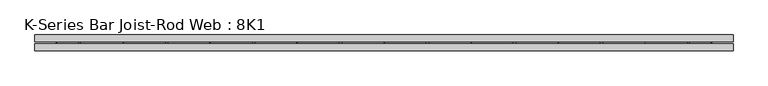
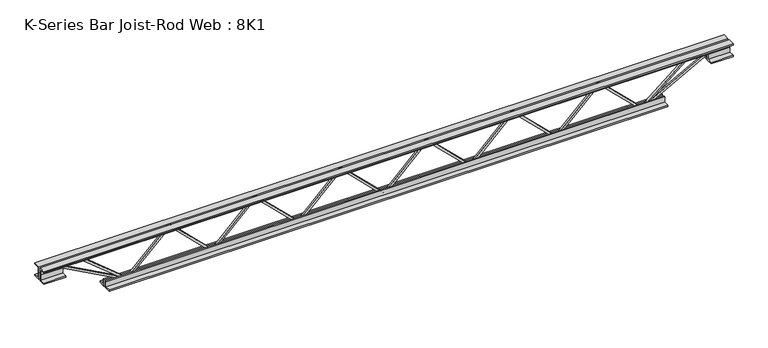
"""IFC4 building model written with IfcOpenShell, lengths in millimetres: beam geometry, K-Series Bar Joist-Rod Web : 8K1."""

from ifc_helpers import new_model, si_unit, frame, origin, place, context, project, spatial, polyline, outline, extrude, source, transform, mapped, element, save


def k_series_bar_joist_rod_web_8k1_a6564055(model_context):
    return source(origin(), model_context, "Body", "SweptSolid", [
        extrude(outline(polyline([(-90.4875, 401.8896924), (-100.0125, 401.8896924), (-100.0125, 407.0077855), (90.4875, 601.6026317), (90.4875, 604.0664455), (-100.0125, 798.6612917), (-100.0125, 803.7793848), (-90.4875, 803.7793848), (-90.4875, 802.5474779), (100.0125, 607.9526317), (100.0125, 597.7164455), (-90.4875, 403.1215993), (-90.4875, 401.8896924)])), frame((0.0, -4.7625, 0.0), z_axis=(0.0, 1.0, 0.0), x_axis=(0.0, 0.0, 1.0)), (0.0, 0.0, 1.0), 9.525),
        extrude(outline(polyline([(-90.4875, 0.0), (-100.0125, 0.0), (-100.0125, 5.1180931), (90.4875, 199.7129393), (90.4875, 202.1767531), (-100.0125, 396.7715993), (-100.0125, 401.8896924), (-90.4875, 401.8896924), (-90.4875, 400.6577855), (100.0125, 206.0629393), (100.0125, 195.8267531), (-90.4875, 1.2319069), (-90.4875, 0.0)])), frame((0.0, -4.7625, 0.0), z_axis=(0.0, 1.0, 0.0), x_axis=(0.0, 0.0, 1.0)), (0.0, 0.0, 1.0), 9.525),
        extrude(outline(polyline([(-90.4875, -401.8896924), (-100.0125, -401.8896924), (-100.0125, -396.7715993), (90.4875, -202.1767531), (90.4875, -199.7129393), (-100.0125, -5.1180931), (-100.0125, 0.0), (-90.4875, 0.0), (-90.4875, -1.2319069), (100.0125, -195.8267531), (100.0125, -206.0629393), (-90.4875, -400.6577855), (-90.4875, -401.8896924)])), frame((0.0, -4.7625, 0.0), z_axis=(0.0, 1.0, 0.0), x_axis=(0.0, 0.0, 1.0)), (0.0, 0.0, 1.0), 9.525),
        extrude(outline(polyline([(-90.4875, -803.7793848), (-100.0125, -803.7793848), (-100.0125, -798.6612917), (90.4875, -604.0664455), (90.4875, -601.6026317), (-100.0125, -407.0077855), (-100.0125, -401.8896924), (-90.4875, -401.8896924), (-90.4875, -403.1215993), (100.0125, -597.7164455), (100.0125, -607.9526317), (-90.4875, -802.5474779), (-90.4875, -803.7793848)])), frame((0.0, -4.7625, 0.0), z_axis=(0.0, 1.0, 0.0), x_axis=(0.0, 0.0, 1.0)), (0.0, 0.0, 1.0), 9.525),
        extrude(outline(polyline([(-90.4875, 803.7793848), (-100.0125, 803.7793848), (-100.0125, 808.8974779), (90.4875, 1003.4923241), (90.4875, 1005.9561379), (-100.0125, 1200.5509841), (-100.0125, 1205.6690772), (-90.4875, 1205.6690772), (-90.4875, 1204.4371703), (100.0125, 1009.8423241), (100.0125, 999.6061379), (-90.4875, 805.0112917), (-90.4875, 803.7793848)])), frame((0.0, -4.7625, 0.0), z_axis=(0.0, 1.0, 0.0), x_axis=(0.0, 0.0, 1.0)), (0.0, 0.0, 1.0), 9.525),
        extrude(outline(polyline([(-90.4875, -1205.6690772), (-100.0125, -1205.6690772), (-100.0125, -1200.5509841), (90.4875, -1005.9561379), (90.4875, -1003.4923241), (-100.0125, -808.8974779), (-100.0125, -803.7793848), (-90.4875, -803.7793848), (-90.4875, -805.0112917), (100.0125, -999.6061379), (100.0125, -1009.8423241), (-90.4875, -1204.4371703), (-90.4875, -1205.6690772)])), frame((0.0, -4.7625, 0.0), z_axis=(0.0, 1.0, 0.0), x_axis=(0.0, 0.0, 1.0)), (0.0, 0.0, 1.0), 9.525),
        extrude(outline(polyline([(4.7625, 101.6), (36.5125, 101.6), (36.5125, 95.25), (11.1125, 95.25), (11.1125, 69.85), (4.7625, 69.85), (4.7625, 101.6)])), frame((-1612.0690772, 0.0, 0.0), z_axis=(1.0, 0.0, 0.0), x_axis=(0.0, 1.0, 0.0)), (0.0, 0.0, 1.0), 3224.1381544),
        extrude(outline(polyline([(-4.7625, 101.6), (-4.7625, 69.85), (-11.1125, 69.85), (-11.1125, 95.25), (-36.5125, 95.25), (-36.5125, 101.6), (-4.7625, 101.6)])), frame((-1612.0690772, 0.0, 0.0), z_axis=(1.0, 0.0, 0.0), x_axis=(0.0, 1.0, 0.0)), (0.0, 0.0, 1.0), 3224.1381544),
        extrude(outline(polyline([(-4.7625, 38.1), (-36.5125, 38.1), (-36.5125, 44.45), (-11.1125, 44.45), (-11.1125, 69.85), (-4.7625, 69.85), (-4.7625, 38.1)])), frame((-1612.0690772, 0.0, 0.0), z_axis=(1.0, 0.0, 0.0), x_axis=(0.0, 1.0, 0.0)), (0.0, 0.0, 1.0), 101.6),
        extrude(outline(polyline([(36.5125, 38.1), (4.7625, 38.1), (4.7625, 69.85), (11.1125, 69.85), (11.1125, 44.45), (36.5125, 44.45), (36.5125, 38.1)])), frame((-1612.0690772, 0.0, 0.0), z_axis=(1.0, 0.0, 0.0), x_axis=(0.0, 1.0, 0.0)), (0.0, 0.0, 1.0), 101.6),
        extrude(outline(polyline([(4.7625, 38.1), (4.7625, 69.85), (11.1125, 69.85), (11.1125, 44.45), (36.5125, 44.45), (36.5125, 38.1), (4.7625, 38.1)])), frame((1510.4690772, 0.0, 0.0), z_axis=(1.0, 0.0, 0.0), x_axis=(0.0, 1.0, 0.0)), (0.0, 0.0, 1.0), 101.6),
        extrude(outline(polyline([(-4.7625, 38.1), (-36.5125, 38.1), (-36.5125, 44.45), (-11.1125, 44.45), (-11.1125, 69.85), (-4.7625, 69.85), (-4.7625, 38.1)])), frame((1510.4690772, 0.0, 0.0), z_axis=(1.0, 0.0, 0.0), x_axis=(0.0, 1.0, 0.0)), (0.0, 0.0, 1.0), 101.6),
        extrude(outline(polyline([(4.7625, -101.6), (4.7625, -69.85), (11.1125, -69.85), (11.1125, -95.25), (36.5125, -95.25), (36.5125, -101.6), (4.7625, -101.6)])), frame((-1307.2690772, 0.0, 0.0), z_axis=(1.0, 0.0, 0.0), x_axis=(0.0, 1.0, 0.0)), (0.0, 0.0, 1.0), 2614.5381544),
        extrude(outline(polyline([(-4.7625, -101.6), (-36.5125, -101.6), (-36.5125, -95.25), (-11.1125, -95.25), (-11.1125, -69.85), (-4.7625, -69.85), (-4.7625, -101.6)])), frame((-1307.2690772, 0.0, 0.0), z_axis=(1.0, 0.0, 0.0), x_axis=(0.0, 1.0, 0.0)), (0.0, 0.0, 1.0), 2614.5381544),
        extrude(outline(polyline([(0.0, -9.525), (0.0, 0.0), (346.6425392, 0.0), (346.6425392, -9.525), (0.0, -9.525)])), frame((-1512.7373757, 4.7625, 65.662372), z_axis=(0.47628314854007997, 0.0, 0.8792919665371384), x_axis=(0.8792919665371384, 0.0, -0.47628314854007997)), (0.0, 0.0, 1.0), 9.525),
        extrude(outline(polyline([(0.0, -9.525), (0.0, 0.0), (260.0708388, 0.0), (260.0708388, -9.525), (0.0, -9.525)])), frame((-1409.6372872, 4.7625, 66.170234), z_axis=(0.6348270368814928, 0.0, 0.7726542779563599), x_axis=(0.7726542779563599, 0.0, -0.6348270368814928)), (0.0, 0.0, 1.0), 9.525),
        extrude(outline(polyline([(0.0, -9.525), (0.0, 0.0), (346.6425392, 0.0), (346.6425392, -9.525), (0.0, -9.525)])), frame((1512.7373757, -4.7625, 65.662372), z_axis=(-0.4762831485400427, 0.0, 0.8792919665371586), x_axis=(-0.8792919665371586, 0.0, -0.4762831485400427)), (0.0, 0.0, 1.0), 9.525),
        extrude(outline(polyline([(0.0, -9.525), (0.0, 0.0), (260.0708388, 0.0), (260.0708388, -9.525), (0.0, -9.525)])), frame((1409.6372872, -4.7625, 66.170234), z_axis=(-0.6348270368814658, 0.0, 0.7726542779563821), x_axis=(-0.7726542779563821, 0.0, -0.6348270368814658)), (0.0, 0.0, 1.0), 9.525),
    ])


if __name__ == "__main__":
    model = new_model("IFC4")
    model_context = context("Model", 3, world=origin())
    ifc_project = project(units=[si_unit("LENGTHUNIT", "METRE", prefix="MILLI")], contexts=[model_context])
    site = spatial("IfcSite", under=ifc_project)
    building = spatial("IfcBuilding", under=site)
    placement = place(None, origin())
    k_series_bar_joist_rod_web_8k1_shape = k_series_bar_joist_rod_web_8k1_a6564055(model_context)
    element("IfcBeam", 1, ObjectType="K-Series Bar Joist-Rod Web : 8K1", at=placement, inside=building, context=model_context, shape_type="MappedRepresentation", body=[
        mapped(k_series_bar_joist_rod_web_8k1_shape, transform((0.0, 0.0, 0.0), x_axis=(1.0, 0.0, 0.0), y_axis=(0.0, 1.0, 0.0), z_axis=(0.0, 0.0, 1.0))),
    ])
    save(model, "model.ifc")
